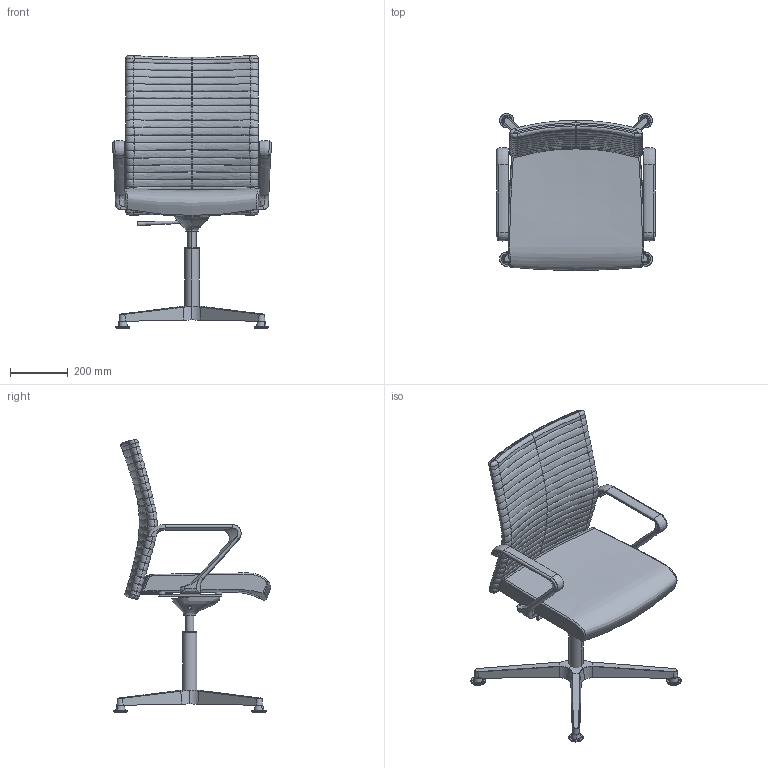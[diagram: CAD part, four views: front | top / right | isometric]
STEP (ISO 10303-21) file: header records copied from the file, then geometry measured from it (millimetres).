
FILE_DESCRIPTION(/* description */ (''),/* implementation_level */ '2;1');
FILE_NAME(/* name */ 'EL02AF~1',/* time_stamp */ '2017-07-18T23:29:35+02:00',/* author */ (''),/* organization */ (''),/* preprocessor_version */ 'ST-DEVELOPER v15',/* originating_system */ '',/* authorisation */ '');
FILE_SCHEMA (('CONFIG_CONTROL_DESIGN'));
Length unit declared in the file: millimetre
Products named in the file (1): Document
Bounding box: 549.34 x 546.29 x 947.61 mm (x, y, z)
Volume: 12607653.3 mm3; surface area: 1621442.1 mm2
Topology: 4 solids, 27 shells, 439 faces, 1016 edges, 593 vertices
Faces by surface type: bspline 399, plane 40
Entity records: 32629 total; most frequent: CARTESIAN_POINT 26607, ORIENTED_EDGE 1800, EDGE_CURVE 1005, B_SPLINE_CURVE_WITH_KNOTS 773, VERTEX_POINT 587, ADVANCED_FACE 439, FACE_OUTER_BOUND 439, EDGE_LOOP 439
